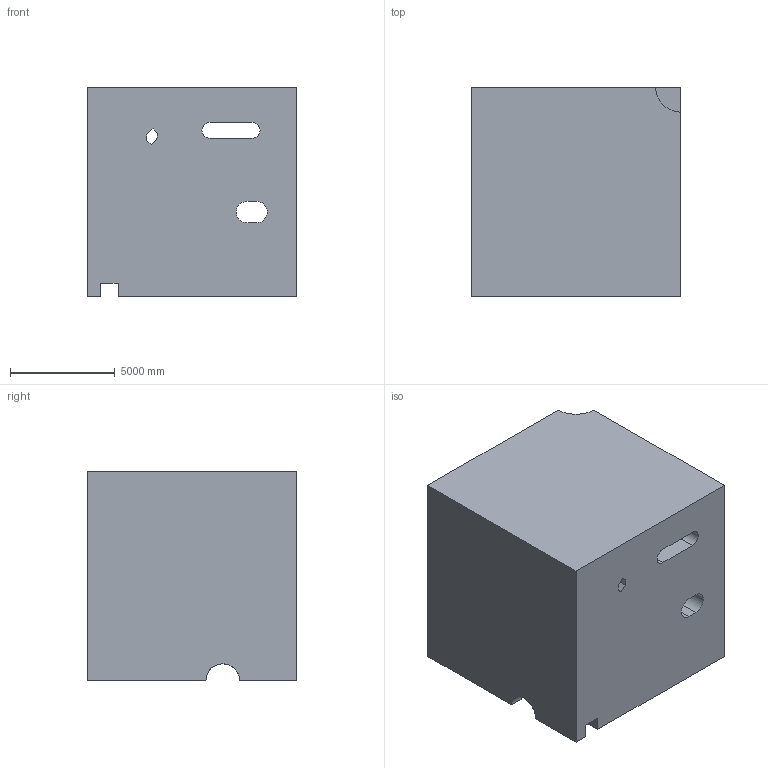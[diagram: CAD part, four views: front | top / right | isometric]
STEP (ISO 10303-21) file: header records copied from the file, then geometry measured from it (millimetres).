
FILE_DESCRIPTION (( 'STEP AP203' ), '1' );
FILE_NAME ('161.STEP', '2022-09-06T13:28:24', ( 'user' ), ( '' ), 'SwSTEP 2.0', 'SolidWorks 2021', '' );
FILE_SCHEMA (( 'CONFIG_CONTROL_DESIGN' ));
Length unit declared in the file: centimetre
Products named in the file (1): 161
Bounding box: 10000 x 10000 x 10000 mm (x, y, z)
Volume: 936141122837.7 mm3; surface area: 769196051.6 mm2
Topology: 1 solids, 1 shells, 37 faces, 108 edges, 72 vertices
Faces by surface type: plane 30, cylinder 7
Entity records: 1313 total; most frequent: CARTESIAN_POINT 230, ORIENTED_EDGE 216, DIRECTION 198, EDGE_CURVE 108, LINE 86, VECTOR 86, VERTEX_POINT 72, AXIS2_PLACEMENT_3D 56
